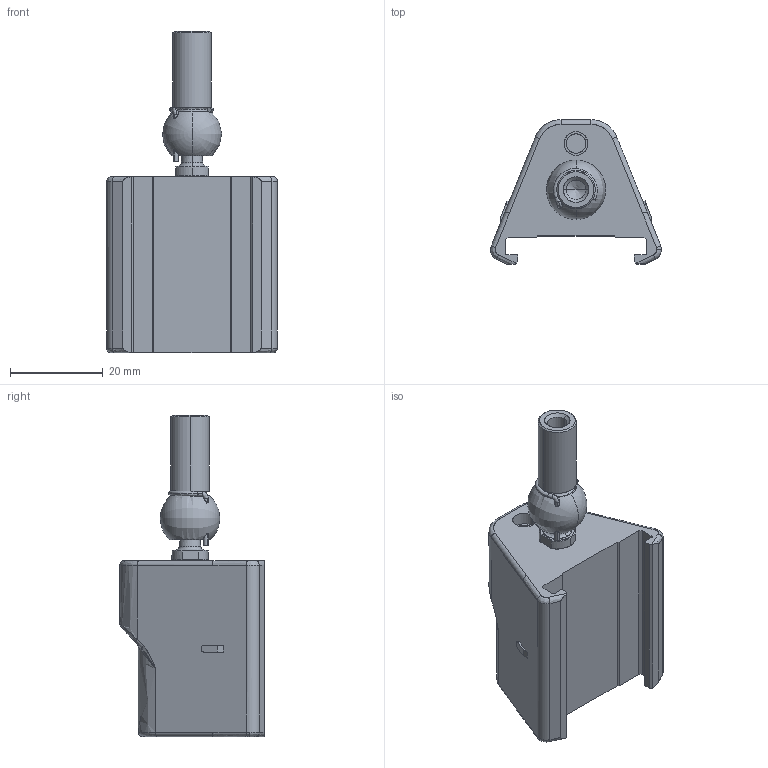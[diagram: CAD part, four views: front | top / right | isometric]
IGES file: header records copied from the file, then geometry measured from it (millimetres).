
Start section: SolidWorks IGES file using analytic representation for surfaces
Global section: file name: C:\Users\diego.babaglioni\Desktop\Cursori a slitta WPP_WPA\PCUR210\PCUR210.IGS; native system: SolidWorks 2019; preprocessor: SolidWorks 2019; author: diego.babaglioni; date: 190508.092905; units: millimetre
Bounding box: 36.91 x 31.15 x 69.38 mm (x, y, z)
Surface area: 9393.4 mm2 (no closed solid volume)
Topology: 0 solids, 0 shells, 191 faces, 2173 edges, 2168 vertices
Faces by surface type: bspline 115, revolution 76
